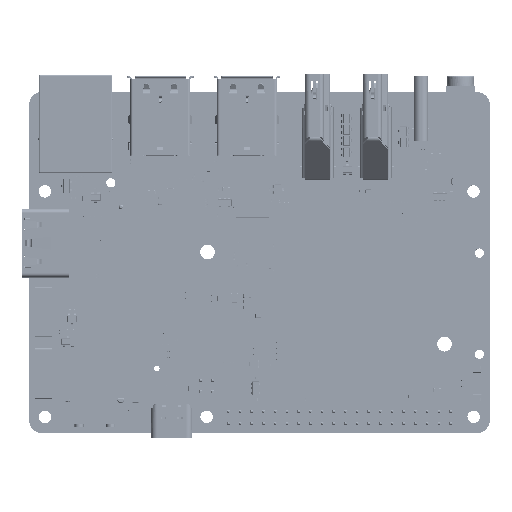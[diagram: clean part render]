
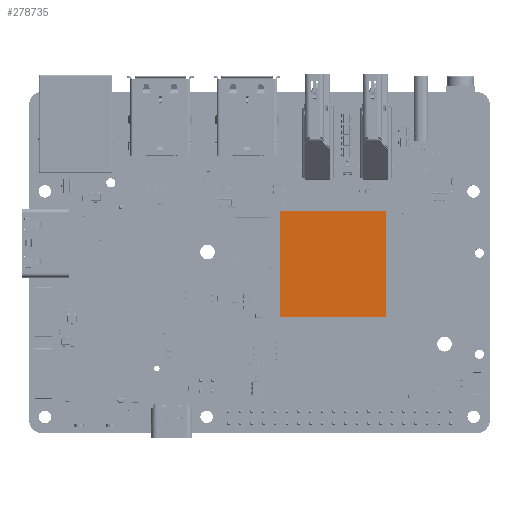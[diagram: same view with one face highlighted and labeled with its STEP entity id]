
A CAD part, top view. The second image highlights one B-rep face of the part: STEP entity #278735.
In plain terms, the highlighted planar face has unit normal (0, 0, 1).
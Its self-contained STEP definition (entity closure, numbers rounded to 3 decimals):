
#275428=DIRECTION('',(0.,1.,0.));
#275429=VECTOR('',#275428,23.);
#275430=CARTESIAN_POINT('',(51.644,25.4,1.5));
#275431=LINE('',#275430,#275429);
#275432=DIRECTION('',(1.,0.,0.));
#275433=VECTOR('',#275432,23.);
#275434=CARTESIAN_POINT('',(51.644,48.4,1.5));
#275435=LINE('',#275434,#275433);
#275436=DIRECTION('',(0.,-1.,0.));
#275437=VECTOR('',#275436,23.);
#275438=CARTESIAN_POINT('',(74.644,48.4,1.5));
#275439=LINE('',#275438,#275437);
#275440=DIRECTION('',(-1.,0.,0.));
#275441=VECTOR('',#275440,23.);
#275442=CARTESIAN_POINT('',(74.644,25.4,1.5));
#275443=LINE('',#275442,#275441);
#276422=CARTESIAN_POINT('',(51.644,48.4,1.5));
#276423=VERTEX_POINT('',#276422);
#276424=CARTESIAN_POINT('',(51.644,25.4,1.5));
#276425=VERTEX_POINT('',#276424);
#276426=CARTESIAN_POINT('',(74.644,48.4,1.5));
#276427=VERTEX_POINT('',#276426);
#276428=CARTESIAN_POINT('',(74.644,25.4,1.5));
#276429=VERTEX_POINT('',#276428);
#278724=CARTESIAN_POINT('',(0.,0.,1.5));
#278725=DIRECTION('',(0.,0.,1.));
#278726=DIRECTION('',(1.,0.,0.));
#278727=AXIS2_PLACEMENT_3D('',#278724,#278725,#278726);
#278728=PLANE('',#278727);
#278729=ORIENTED_EDGE('',*,*,#278676,.T.);
#278730=ORIENTED_EDGE('',*,*,#278691,.T.);
#278731=ORIENTED_EDGE('',*,*,#278705,.T.);
#278732=ORIENTED_EDGE('',*,*,#278718,.T.);
#278733=EDGE_LOOP('',(#278729,#278730,#278731,#278732));
#278734=FACE_OUTER_BOUND('',#278733,.F.);
#278735=ADVANCED_FACE('',(#278734),#278728,.T.);
#278676=EDGE_CURVE('',#276425,#276423,#275431,.T.);
#278691=EDGE_CURVE('',#276423,#276427,#275435,.T.);
#278705=EDGE_CURVE('',#276427,#276429,#275439,.T.);
#278718=EDGE_CURVE('',#276429,#276425,#275443,.T.);
